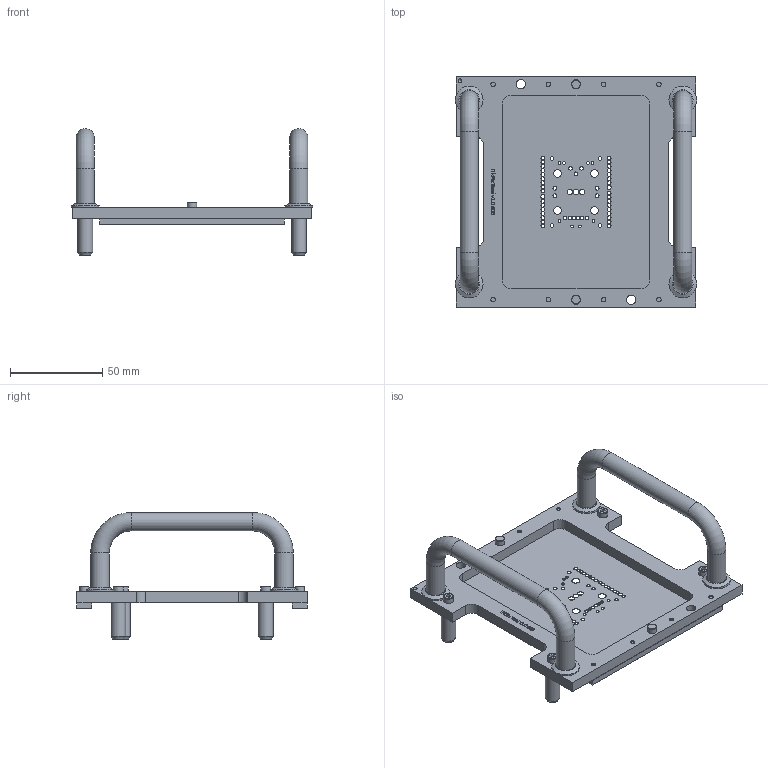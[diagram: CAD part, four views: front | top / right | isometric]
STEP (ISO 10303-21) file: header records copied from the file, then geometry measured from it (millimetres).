
FILE_DESCRIPTION(/* description */ ('Glue Pattern Stencil Tool'),/* implementation_level */ '2;1');
FILE_NAME(/* name */ 'ITPT.03.00.000.stp',/* time_stamp */ '2025-02-12T14:39:59+01:00',/* author */ ('Rüdiger Widera'),/* organization */ (''),/* preprocessor_version */ 'ST-DEVELOPER v19.2',/* originating_system */ 'Autodesk Inventor 2024',/* authorisation */ '');
FILE_SCHEMA (('AUTOMOTIVE_DESIGN { 1 0 10303 214 3 1 1 }'));
Length unit declared in the file: millimetre
Products named in the file (10): ITPT.03.00.000; ITPT.03.00.001; ITPT.03.00.003; ITPT.03.00.004; DIN 912 - M3 x 8; ISO 10642  - M5  x  12; ISO 10642 - M3x8; ITPT.03.00.002; MSYG5-1205; Cabinet ''U'' handle GN 425-10-100-SW
Assembly tree (26 placements, depth 2):
  ITPT.03.00.000
    ITPT.03.00.001
    ITPT.03.00.003  x2
    ITPT.03.00.004  x4
    DIN 912 - M3 x 8  x4
    ISO 10642  - M5  x  12  x4
    ISO 10642 - M3x8  x8
    ITPT.03.00.002
    MSYG5-1205  x2
  Cabinet ''U'' handle GN 425-10-100-SW
Bounding box: 131 x 125 x 69 mm (x, y, z)
Volume: 71769.7 mm3; surface area: 66286.9 mm2
Topology: 28 solids, 28 shells, 723 faces, 1811 edges, 1193 vertices
Faces by surface type: plane 310, cylinder 186, bspline 134, cone 71, torus 22
Full cylindrical faces by diameter (mm): 1.5 x8, 2 x50, 2.459 x12, 3 x15, 3.4 x20, 4.134 x4, 4.24 x4, 5 x15, 5.1 x6, 5.4 x4, 5.5 x4, 6 x8, 8 x8, 9.43 x4, 10 x6, 15 x4
Entity records: 18458 total; most frequent: CARTESIAN_POINT 6278, ORIENTED_EDGE 2502, DIRECTION 2051, EDGE_CURVE 1251, VERTEX_POINT 832, EDGE_LOOP 729, AXIS2_PLACEMENT_3D 699, LINE 653
